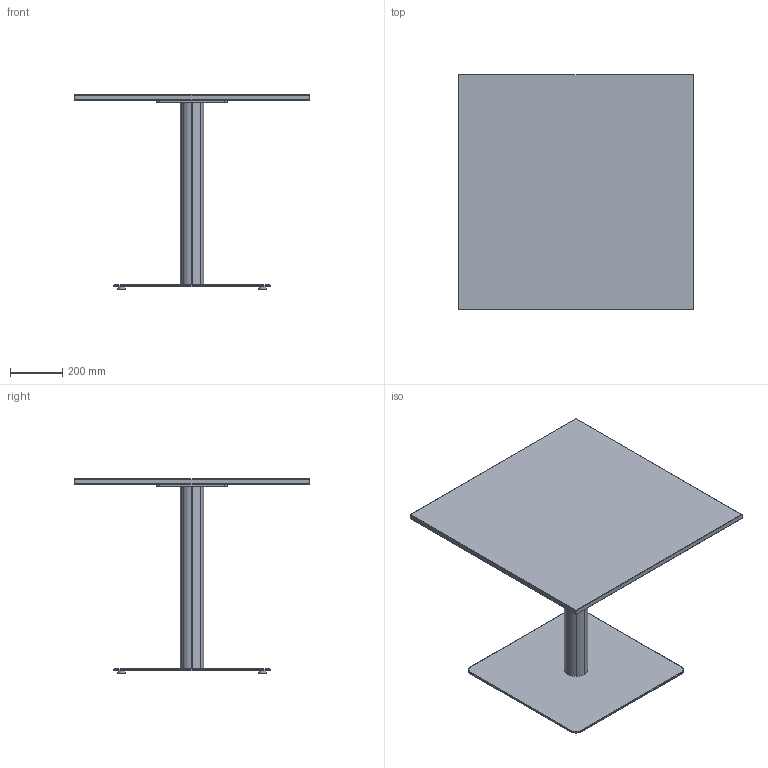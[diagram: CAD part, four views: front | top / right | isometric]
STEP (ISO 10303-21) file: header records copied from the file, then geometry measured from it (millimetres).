
FILE_DESCRIPTION( ('This file contains a STEP AP42 implementation' ,'as created by ZW3D STEP Interface translator.') ,'2;1' );
FILE_NAME( 'Fut - B_Carré - F4 - M1 - 900 x 900 x 750.stp' ,'24 911.163140', (''), ('ZWCAD Software Co.'), 'Version 1.0', 'ZW3D to STEP translator', '' );
FILE_SCHEMA(('AUTOMOTIVE_DESIGN { 1 0 10303 214 1 1 1 1 }'));
Length unit declared in the file: millimetre
Products named in the file (15): 0; PIED BISTROT PARAMETRIQUE_; CROIX ACIER 370 V.02_; CRX-X370-02_; SOCLE ACIER L 600x600 V.02_; SCL-R600-02_; PLA-R30A-01_; PLA-R30A-01; COLONNE ACIER Ø48.5 V.02_; TUB-D048-02_; PLA-R48A-01_; COLONNE BOIS PARAMETIQUE_; WUERTH 0276063020 Euro-screw 6.3x2 Verzinkt_; PLATEAU BISTROT PARAMETRIQUE_; insert_m6_13_
Assembly tree (23 placements, depth 3):
  0
  PIED BISTROT PARAMETRIQUE_
    CROIX ACIER 370 V.02_
      CRX-X370-02_
    SOCLE ACIER L 600x600 V.02_
      SCL-R600-02_
      PLA-R30A-01_
      PLA-R30A-01  x3
    COLONNE ACIER Ø48.5 V.02_
      TUB-D048-02_
      PLA-R48A-01_  x2
    COLONNE BOIS PARAMETIQUE_
    WUERTH 0276063020 Euro-screw 6.3x2 Verzinkt_
    PLATEAU BISTROT PARAMETRIQUE_
      insert_m6_13_  x8
Bounding box: 900 x 900 x 744 mm (x, y, z)
Volume: 22577385 mm3; surface area: 3212982.7 mm2
Topology: 23 solids, 23 shells, 561 faces, 1358 edges, 846 vertices
Faces by surface type: plane 282, bspline 129, cylinder 104, cone 45, torus 1
Full cylindrical faces by diameter (mm): 4.88 x1, 6 x8, 6.3 x1, 8 x45, 12 x2, 14 x2, 30 x4, 44.5 x3, 48.5 x1
Entity records: 13039 total; most frequent: CARTESIAN_POINT 3561, ORIENTED_EDGE 1722, DIRECTION 1600, EDGE_CURVE 861, VECTOR 558, LINE 558, VERTEX_POINT 548, AXIS2_PLACEMENT_3D 521
